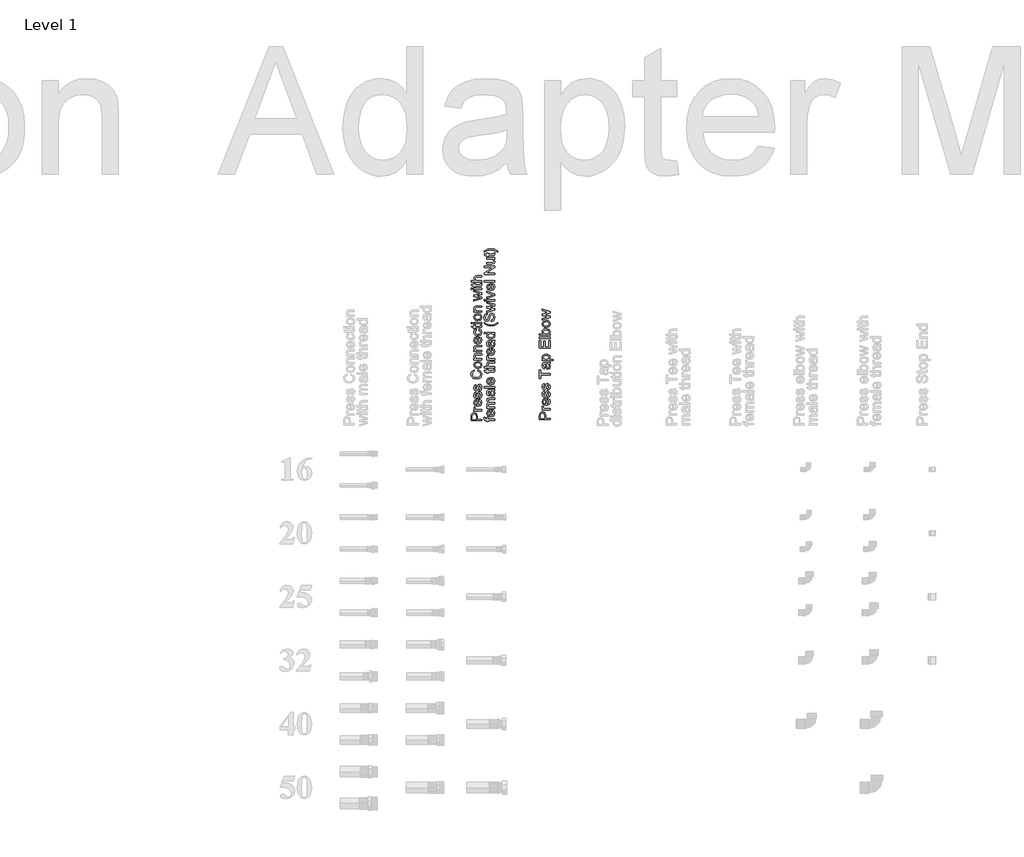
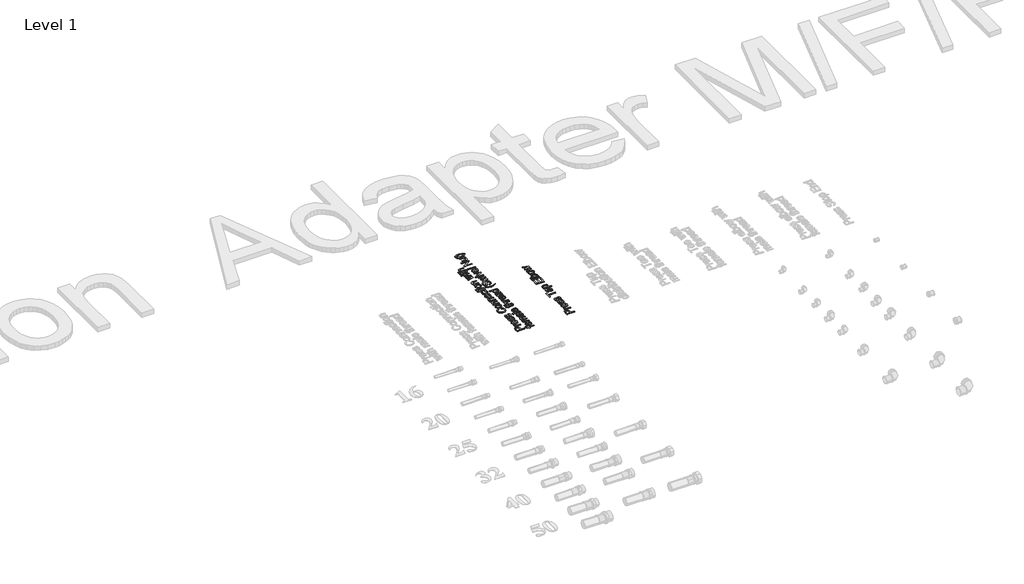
# One storey, part 42 of 57: 2 proxies.
"""IFC4 building model written with IfcOpenShell, lengths in millimetres."""

from ifc_helpers import new_model, si_unit, frame, origin, place, context, project, spatial, polyline, outline, extrude, element, save

model = new_model("IFC4")

# Units and contexts
model_context = context("Model", 3, world=origin())
ifc_project = project(units=[si_unit("LENGTHUNIT", "METRE", prefix="MILLI")], contexts=[model_context])

# Site, building, storey
site = spatial("IfcSite", under=ifc_project)
building = spatial("IfcBuilding", under=site)
storey = spatial("IfcBuildingStorey", under=building, Name="Level 1", Elevation=27.3876384)

# Proxies
placement = place(None, origin())
element("IfcBuildingElementProxy", 1, Name="50mm Arial", ObjectType="50mm Arial", at=placement, inside=storey, context=model_context, shape_type="SweptSolid", body=[
    extrude(outline(polyline([(30019.1417262, 30426.4316676), (29968.9135711, 30426.4316676), (29968.9135711, 30445.0464965), (29969.3918177, 30452.5512892), (29971.7401311, 30458.651999), (29976.5961734, 30462.6067304), (29983.4449099, 30464.1027839), (29994.2974288, 30460.0622133), (29998.7365382, 30445.4756922), (29998.7365382, 30432.710187), (30019.1417262, 30432.710187), (30019.1417262, 30426.4316676)]), holes=[polyline([(29992.4580188, 30432.710187), (29992.4580188, 30445.8435742), (29990.152625, 30455.089675), (29983.6656391, 30457.8242645), (29978.4662402, 30456.2117151), (29975.6212861, 30451.9749408), (29975.1920905, 30445.6964214), (29975.1920905, 30432.710187), (29992.4580188, 30432.710187)])]), frame((0.0, 0.0, 27.3876384), z_axis=(0.0, 0.0, 1.0), x_axis=(1.0, 0.0, 0.0)), (0.0, 0.0, 1.0), 2.0),
    extrude(outline(polyline([(30019.1417262, 30471.9509331), (29982.2554248, 30471.9509331), (29982.2554248, 30477.4446376), (29987.7123411, 30477.4446376), (29982.6846205, 30481.3441867), (29981.4706099, 30485.2682613), (29983.4081217, 30491.5713062), (29989.0367162, 30489.4743788), (29987.7491293, 30485.0597949), (29988.9876653, 30481.5097336), (29992.4212306, 30479.2472594), (29999.754345, 30478.2294525), (30019.1417262, 30478.2294525), (30019.1417262, 30471.9509331)])), frame((0.0, 0.0, 27.3876384), z_axis=(0.0, 0.0, 1.0), x_axis=(1.0, 0.0, 0.0)), (0.0, 0.0, 1.0), 2.0),
    extrude(outline(polyline([(30008.1543173, 30521.3206969), (30008.9391322, 30527.4765889), (30017.0447988, 30521.7192357), (30019.9265411, 30510.9954755), (30014.9540028, 30497.9601902), (30001.0051438, 30493.140936), (29986.5964323, 30498.0092411), (29981.4706099, 30510.6398563), (29986.5841696, 30522.9087208), (30000.9683556, 30527.6727927), (30002.6606128, 30527.6360045), (30002.6606128, 30499.4194554), (30010.8153304, 30503.0308303), (30013.6480217, 30511.1181029), (30012.3359093, 30517.2739949), (30008.1543173, 30521.3206969)]), holes=[polyline([(29996.3820934, 30499.4194554), (29996.3820934, 30521.3942733), (29990.6921852, 30518.880413), (29987.7491293, 30510.6153308), (29990.0974427, 30502.8836776), (29996.3820934, 30499.4194554)])]), frame((0.0, 0.0, 27.3876384), z_axis=(0.0, 0.0, 1.0), x_axis=(1.0, 0.0, 0.0)), (0.0, 0.0, 1.0), 2.0),
    extrude(outline(polyline([(30008.1543173, 30531.5968673), (30007.3695023, 30537.8753867), (30012.0293409, 30540.7816544), (30013.6480217, 30547.4403185), (30012.164231, 30553.8414652), (30008.6816148, 30555.9261299), (30005.8611862, 30553.8292025), (30004.0708271, 30547.3667421), (30000.9990124, 30537.9121749), (29997.412163, 30533.7857651), (29992.3476542, 30532.3816822), (29987.6694215, 30533.5098536), (29984.0948348, 30536.5877997), (29982.2370307, 30540.5793193), (29981.4706099, 30545.9810533), (29982.7030146, 30553.6207361), (29986.038478, 30558.4767784), (29991.6732039, 30560.6350194), (29992.4580188, 30554.3565), (29988.9937967, 30551.9959239), (29987.7491293, 30546.4715626), (29988.9386144, 30540.4628234), (29991.7099921, 30538.6602016), (29993.5371393, 30539.4082283), (29994.9228282, 30541.7504103), (29996.2594661, 30547.1582757), (29999.2147848, 30556.3737196), (30002.5625109, 30560.6534135), (30008.0194272, 30562.2046493), (30014.0281664, 30560.3836334), (30018.3875681, 30555.1290522), (30019.9265411, 30547.3544794), (30016.9589597, 30536.4038587), (30008.1543173, 30531.5968673)])), frame((0.0, 0.0, 27.3876384), z_axis=(0.0, 0.0, 1.0), x_axis=(1.0, 0.0, 0.0)), (0.0, 0.0, 1.0), 2.0),
    extrude(outline(polyline([(30008.1543173, 30566.9135388), (30007.3695023, 30573.1920582), (30012.0293409, 30576.098326), (30013.6480217, 30582.7569901), (30012.164231, 30589.1581368), (30008.6816148, 30591.2428014), (30005.8611862, 30589.1458741), (30004.0708271, 30582.6834137), (30000.9990124, 30573.2288464), (29997.412163, 30569.1024367), (29992.3476542, 30567.6983537), (29987.6694215, 30568.8265252), (29984.0948348, 30571.9044712), (29982.2370307, 30575.8959909), (29981.4706099, 30581.2977248), (29982.7030146, 30588.9374076), (29986.038478, 30593.7934499), (29991.6732039, 30595.951691), (29992.4580188, 30589.6731716), (29988.9937967, 30587.3125954), (29987.7491293, 30581.7882341), (29988.9386144, 30575.7794949), (29991.7099921, 30573.9768731), (29993.5371393, 30574.7248998), (29994.9228282, 30577.0670819), (29996.2594661, 30582.4749472), (29999.2147848, 30591.6903912), (30002.5625109, 30595.9700851), (30008.0194272, 30597.5213208), (30014.0281664, 30595.7003049), (30018.3875681, 30590.4457238), (30019.9265411, 30582.6711509), (30016.9589597, 30571.7205302), (30008.1543173, 30566.9135388)])), frame((0.0, 0.0, 27.3876384), z_axis=(0.0, 0.0, 1.0), x_axis=(1.0, 0.0, 0.0)), (0.0, 0.0, 1.0), 2.0),
    extrude(outline(polyline([(30001.2871867, 30660.3065147), (30002.9058675, 30666.585034), (30015.5671395, 30659.141555), (30019.9265411, 30645.995905), (30016.6278659, 30632.9299628), (30007.0751967, 30625.2657546), (29993.6475039, 30622.6353983), (29979.9990819, 30625.6091111), (29971.1515199, 30634.0642657), (29968.1287562, 30646.1307951), (29972.0405681, 30658.706228), (29983.0525025, 30665.8002191), (29984.5485559, 30659.5216997), (29976.8291654, 30654.3713518), (29974.4072756, 30645.8855404), (29977.0928141, 30636.0630912), (29984.3033012, 30630.5142044), (29993.6352412, 30628.9139177), (30004.4509718, 30630.80851), (30011.361022, 30636.7068847), (30013.6480217, 30645.3705056), (30010.5332875, 30654.9783571), (30001.2871867, 30660.3065147)])), frame((0.0, 0.0, 27.3876384), z_axis=(0.0, 0.0, 1.0), x_axis=(1.0, 0.0, 0.0)), (0.0, 0.0, 1.0), 2.0),
    extrude(outline(polyline([(30000.6985755, 30672.8635534), (29991.8050283, 30674.2216511), (29985.5541, 30678.2959442), (29981.4706099, 30689.3569295), (29986.4431482, 30701.2211239), (30000.1835407, 30705.8257802), (30011.3548906, 30703.7901665), (30017.6763296, 30697.861135), (30019.9265411, 30689.3569295), (30014.9723969, 30677.4191588), (30000.6985755, 30672.8635534)]), holes=[polyline([(30000.6863128, 30679.1420728), (30010.4167915, 30682.0483406), (30013.6480217, 30689.3569295), (30010.3983974, 30696.640993), (30000.490109, 30699.5472608), (29990.9803594, 30696.6225989), (29987.7491293, 30689.3569295), (29990.9680967, 30682.0483406), (30000.6863128, 30679.1420728)])]), frame((0.0, 0.0, 27.3876384), z_axis=(0.0, 0.0, 1.0), x_axis=(1.0, 0.0, 0.0)), (0.0, 0.0, 1.0), 2.0),
    extrude(outline(polyline([(30019.1417262, 30712.8891145), (29982.2554248, 30712.8891145), (29982.2554248, 30719.1676339), (29987.4057727, 30719.1676339), (29982.9544006, 30723.9684939), (29981.4706099, 30730.5229248), (29982.6662264, 30736.4519563), (29985.805486, 30740.4986582), (29990.4224051, 30742.3809878), (29996.492458, 30742.7120816), (30019.1417262, 30742.7120816), (30019.1417262, 30736.4335622), (29997.3385866, 30736.4335622), (29991.7835685, 30735.7100609), (29988.8466439, 30733.1532811), (29987.7491293, 30728.8429304), (29990.2139386, 30722.0309821), (29999.570404, 30719.1676339), (30019.1417262, 30719.1676339), (30019.1417262, 30712.8891145)])), frame((0.0, 0.0, 27.3876384), z_axis=(0.0, 0.0, 1.0), x_axis=(1.0, 0.0, 0.0)), (0.0, 0.0, 1.0), 2.0),
    extrude(outline(polyline([(30019.1417262, 30751.3450457), (29982.2554248, 30751.3450457), (29982.2554248, 30757.6235651), (29987.4057727, 30757.6235651), (29982.9544006, 30762.4244251), (29981.4706099, 30768.978856), (29982.6662264, 30774.9078875), (29985.805486, 30778.9545895), (29990.4224051, 30780.836919), (29996.492458, 30781.1680128), (30019.1417262, 30781.1680128), (30019.1417262, 30774.8894934), (29997.3385866, 30774.8894934), (29991.7835685, 30774.1659922), (29988.8466439, 30771.6092123), (29987.7491293, 30767.2988616), (29990.2139386, 30760.4869133), (29999.570404, 30757.6235651), (30019.1417262, 30757.6235651), (30019.1417262, 30751.3450457)])), frame((0.0, 0.0, 27.3876384), z_axis=(0.0, 0.0, 1.0), x_axis=(1.0, 0.0, 0.0)), (0.0, 0.0, 1.0), 2.0),
    extrude(outline(polyline([(30008.1543173, 30815.626293), (30008.9391322, 30821.7821851), (30017.0447988, 30816.0248318), (30019.9265411, 30805.3010717), (30014.9540028, 30792.2657863), (30001.0051438, 30787.4465322), (29986.5964323, 30792.3148373), (29981.4706099, 30804.9454524), (29986.5841696, 30817.214317), (30000.9683556, 30821.9783888), (30002.6606128, 30821.9416006), (30002.6606128, 30793.7250516), (30010.8153304, 30797.3364265), (30013.6480217, 30805.423699), (30012.3359093, 30811.5795911), (30008.1543173, 30815.626293)]), holes=[polyline([(29996.3820934, 30793.7250516), (29996.3820934, 30815.6998694), (29990.6921852, 30813.1860091), (29987.7491293, 30804.920927), (29990.0974427, 30797.1892737), (29996.3820934, 30793.7250516)])]), frame((0.0, 0.0, 27.3876384), z_axis=(0.0, 0.0, 1.0), x_axis=(1.0, 0.0, 0.0)), (0.0, 0.0, 1.0), 2.0),
    extrude(outline(polyline([(30005.7998725, 30851.8013559), (30006.5846874, 30858.0798753), (30016.3887426, 30853.0398919), (30019.9265411, 30843.0825526), (30014.990791, 30831.18157), (30000.8334656, 30826.6872783), (29990.404011, 30828.6063961), (29983.7024273, 30834.4557198), (29981.4706099, 30842.9967135), (29984.5362932, 30852.5432512), (29993.2428337, 30857.2950603), (29994.0276486, 30851.016541), (29989.3248905, 30848.1041418), (29987.7491293, 30843.0457644), (29990.8516007, 30835.7678323), (30000.6617873, 30832.9657977), (30010.5639443, 30835.7065186), (30013.6480217, 30842.8740861), (30011.7227726, 30848.7908549), (30005.7998725, 30851.8013559)])), frame((0.0, 0.0, 27.3876384), z_axis=(0.0, 0.0, 1.0), x_axis=(1.0, 0.0, 0.0)), (0.0, 0.0, 1.0), 2.0),
    extrude(outline(polyline([(30013.9055391, 30876.9154334), (30019.3256672, 30877.7002483), (30019.9265411, 30873.0036215), (30018.8842088, 30867.742909), (30016.1496193, 30865.1186841), (30009.0249713, 30864.3583946), (29988.5339442, 30864.3583946), (29988.5339442, 30859.6495051), (29982.2554248, 30859.6495051), (29982.2554248, 30864.3583946), (29973.2913668, 30864.3583946), (29969.6002842, 30870.636914), (29982.2554248, 30870.636914), (29982.2554248, 30876.9154334), (29988.5339442, 30876.9154334), (29988.5339442, 30870.636914), (30008.8410303, 30870.636914), (30012.0783919, 30870.9680078), (30013.6480217, 30874.1808439), (30013.9055391, 30876.9154334)])), frame((0.0, 0.0, 27.3876384), z_axis=(0.0, 0.0, 1.0), x_axis=(1.0, 0.0, 0.0)), (0.0, 0.0, 1.0), 2.0),
    extrude(outline(polyline([(29975.1920905, 30883.1939528), (29968.9135711, 30883.1939528), (29968.9135711, 30889.4724722), (29975.1920905, 30889.4724722), (29975.1920905, 30883.1939528)])), frame((0.0, 0.0, 27.3876384), z_axis=(0.0, 0.0, 1.0), x_axis=(1.0, 0.0, 0.0)), (0.0, 0.0, 1.0), 2.0),
    extrude(outline(polyline([(30019.1417262, 30883.1939528), (29982.2554248, 30883.1939528), (29982.2554248, 30889.4724722), (30019.1417262, 30889.4724722), (30019.1417262, 30883.1939528)])), frame((0.0, 0.0, 27.3876384), z_axis=(0.0, 0.0, 1.0), x_axis=(1.0, 0.0, 0.0)), (0.0, 0.0, 1.0), 2.0),
    extrude(outline(polyline([(30000.6985755, 30897.3206214), (29991.8050283, 30898.6787191), (29985.5541, 30902.7530122), (29981.4706099, 30913.8139975), (29986.4431482, 30925.6781919), (30000.1835407, 30930.2828482), (30011.3548906, 30928.2472345), (30017.6763296, 30922.318203), (30019.9265411, 30913.8139975), (30014.9723969, 30901.8762268), (30000.6985755, 30897.3206214)]), holes=[polyline([(30000.6863128, 30903.5991408), (30010.4167915, 30906.5054086), (30013.6480217, 30913.8139975), (30010.3983974, 30921.098061), (30000.490109, 30924.0043288), (29990.9803594, 30921.0796669), (29987.7491293, 30913.8139975), (29990.9680967, 30906.5054086), (30000.6863128, 30903.5991408)])]), frame((0.0, 0.0, 27.3876384), z_axis=(0.0, 0.0, 1.0), x_axis=(1.0, 0.0, 0.0)), (0.0, 0.0, 1.0), 2.0),
    extrude(outline(polyline([(30019.1417262, 30937.3461825), (29982.2554248, 30937.3461825), (29982.2554248, 30943.6247019), (29987.4057727, 30943.6247019), (29982.9544006, 30948.4255619), (29981.4706099, 30954.9799928), (29982.6662264, 30960.9090243), (29985.805486, 30964.9557262), (29990.4224051, 30966.8380558), (29996.492458, 30967.1691496), (30019.1417262, 30967.1691496), (30019.1417262, 30960.8906302), (29997.3385866, 30960.8906302), (29991.7835685, 30960.1671289), (29988.8466439, 30957.6103491), (29987.7491293, 30953.2999983), (29990.2139386, 30946.4880501), (29999.570404, 30943.6247019), (30019.1417262, 30943.6247019), (30019.1417262, 30937.3461825)])), frame((0.0, 0.0, 27.3876384), z_axis=(0.0, 0.0, 1.0), x_axis=(1.0, 0.0, 0.0)), (0.0, 0.0, 1.0), 2.0),
    extrude(outline(polyline([(30019.1417262, 31001.5415906), (29982.2554248, 30990.3211898), (29982.2554248, 30996.8449638), (30003.7765215, 31003.2093224), (30011.4652552, 31005.110046), (30004.0585644, 31006.6674131), (29982.2554248, 31011.7319219), (29982.2554248, 31019.2121891), (30003.9972507, 31024.2521725), (30010.7049658, 31025.6378613), (30003.6293687, 31027.6244241), (29982.2554248, 31034.0010454), (29982.2554248, 31040.5493449), (30019.1417262, 31029.2431049), (30019.1417262, 31021.652473), (29997.5102649, 31016.8332189), (29990.7657616, 31015.4352673), (30019.1417262, 31009.2180616), (30019.1417262, 31001.5415906)])), frame((0.0, 0.0, 27.3876384), z_axis=(0.0, 0.0, 1.0), x_axis=(1.0, 0.0, 0.0)), (0.0, 0.0, 1.0), 2.0),
    extrude(outline(polyline([(29975.1920905, 31044.8658269), (29968.9135711, 31044.8658269), (29968.9135711, 31051.1443463), (29975.1920905, 31051.1443463), (29975.1920905, 31044.8658269)])), frame((0.0, 0.0, 27.3876384), z_axis=(0.0, 0.0, 1.0), x_axis=(1.0, 0.0, 0.0)), (0.0, 0.0, 1.0), 2.0),
    extrude(outline(polyline([(30019.1417262, 31044.8658269), (29982.2554248, 31044.8658269), (29982.2554248, 31051.1443463), (30019.1417262, 31051.1443463), (30019.1417262, 31044.8658269)])), frame((0.0, 0.0, 27.3876384), z_axis=(0.0, 0.0, 1.0), x_axis=(1.0, 0.0, 0.0)), (0.0, 0.0, 1.0), 2.0),
    extrude(outline(polyline([(30013.9055391, 31073.9039791), (30019.3256672, 31074.688794), (30019.9265411, 31069.9921672), (30018.8842088, 31064.7314547), (30016.1496193, 31062.1072298), (30009.0249713, 31061.3469403), (29988.5339442, 31061.3469403), (29988.5339442, 31056.6380508), (29982.2554248, 31056.6380508), (29982.2554248, 31061.3469403), (29973.2913668, 31061.3469403), (29969.6002842, 31067.6254597), (29982.2554248, 31067.6254597), (29982.2554248, 31073.9039791), (29988.5339442, 31073.9039791), (29988.5339442, 31067.6254597), (30008.8410303, 31067.6254597), (30012.0783919, 31067.9565535), (30013.6480217, 31071.1693896), (30013.9055391, 31073.9039791)])), frame((0.0, 0.0, 27.3876384), z_axis=(0.0, 0.0, 1.0), x_axis=(1.0, 0.0, 0.0)), (0.0, 0.0, 1.0), 2.0),
    extrude(outline(polyline([(30019.1417262, 31080.1824985), (29968.9135711, 31080.1824985), (29968.9135711, 31086.4610179), (29987.3812473, 31086.4610179), (29981.4706099, 31097.3871131), (29983.0831593, 31104.4381847), (29987.5406628, 31108.7178786), (29995.7934822, 31110.0054656), (30019.1417262, 31110.0054656), (30019.1417262, 31103.7269462), (29996.4434071, 31103.7269462), (29989.8215312, 31101.7281207), (29987.7491293, 31096.0627379), (29989.1470808, 31090.9185214), (29992.9362654, 31087.4849561), (29999.5458786, 31086.4610179), (30019.1417262, 31086.4610179), (30019.1417262, 31080.1824985)])), frame((0.0, 0.0, 27.3876384), z_axis=(0.0, 0.0, 1.0), x_axis=(1.0, 0.0, 0.0)), (0.0, 0.0, 1.0), 2.0),
    extrude(outline(polyline([(30080.1291351, 30427.2164825), (30049.5213531, 30427.2164825), (30049.5213531, 30421.722778), (30043.2428337, 30421.722778), (30043.2428337, 30427.2164825), (30039.5272256, 30427.2164825), (30034.2910385, 30427.8786701), (30030.5509049, 30431.0915062), (30029.1161651, 30437.4190765), (30029.8028782, 30443.1457729), (30035.6889901, 30442.2260679), (30035.3946845, 30438.6085616), (30036.4370168, 30434.6538302), (30040.3243032, 30433.4950019), (30043.2428337, 30433.4950019), (30043.2428337, 30440.5583362), (30049.5213531, 30440.5583362), (30049.5213531, 30433.4950019), (30080.1291351, 30433.4950019), (30080.1291351, 30427.2164825)])), frame((0.0, 0.0, 27.3876384), z_axis=(0.0, 0.0, 1.0), x_axis=(1.0, 0.0, 0.0)), (0.0, 0.0, 1.0), 2.0),
    extrude(outline(polyline([(30069.1417262, 30471.8773567), (30069.9265411, 30478.0332488), (30078.0322077, 30472.2758956), (30080.91395, 30461.5521354), (30075.9414117, 30448.51685), (30061.9925527, 30443.6975959), (30047.5838413, 30448.565901), (30042.4580188, 30461.1965161), (30047.5715785, 30473.4653807), (30061.9557645, 30478.2294525), (30063.6480217, 30478.1926643), (30063.6480217, 30449.9761153), (30071.8027393, 30453.5874902), (30074.6354306, 30461.6747627), (30073.3233182, 30467.8306548), (30069.1417262, 30471.8773567)]), holes=[polyline([(30057.3695023, 30449.9761153), (30057.3695023, 30471.9509331), (30051.6795941, 30469.4370728), (30048.7365382, 30461.1719907), (30051.0848516, 30453.4403374), (30057.3695023, 30449.9761153)])]), frame((0.0, 0.0, 27.3876384), z_axis=(0.0, 0.0, 1.0), x_axis=(1.0, 0.0, 0.0)), (0.0, 0.0, 1.0), 2.0),
    extrude(outline(polyline([(30080.1291351, 30484.5079719), (30043.2428337, 30484.5079719), (30043.2428337, 30490.7864913), (30049.3128866, 30490.7864913), (30044.3403483, 30495.1029734), (30042.4580188, 30501.2466027), (30044.3771365, 30507.5373848), (30049.754345, 30510.9954755), (30044.2821004, 30515.8944374), (30042.4580188, 30522.0809863), (30045.4930453, 30530.2908862), (30054.8433793, 30533.1664971), (30080.1291351, 30533.1664971), (30080.1291351, 30526.8879777), (30057.5411806, 30526.8879777), (30052.2988622, 30526.3054979), (30049.7175568, 30524.1963078), (30048.7365382, 30520.6094584), (30051.2503985, 30514.4351722), (30059.3070142, 30511.9764942), (30080.1291351, 30511.9764942), (30080.1291351, 30505.6979748), (30056.8422048, 30505.6979748), (30050.7598892, 30504.2448409), (30048.7365382, 30499.4807691), (30050.0854388, 30494.8331932), (30054.0340389, 30491.7429845), (30061.5265689, 30490.7864913), (30080.1291351, 30490.7864913), (30080.1291351, 30484.5079719)])), frame((0.0, 0.0, 27.3876384), z_axis=(0.0, 0.0, 1.0), x_axis=(1.0, 0.0, 0.0)), (0.0, 0.0, 1.0), 2.0),
    extrude(outline(polyline([(30075.4202456, 30566.1287239), (30079.675414, 30560.0402769), (30080.91395, 30553.3141677), (30077.9341059, 30544.1968256), (30070.3189486, 30541.0146464), (30065.3525416, 30542.2163942), (30061.7472981, 30545.374048), (30059.6871589, 30549.7702378), (30058.7429284, 30555.2026286), (30056.5846874, 30566.0919357), (30050.5514227, 30564.3996785), (30048.7365382, 30557.4589715), (30049.9444174, 30551.1068758), (30054.2302426, 30548.0779807), (30053.4454277, 30541.7994613), (30047.3140611, 30544.5156567), (30043.7210803, 30549.9848357), (30042.4580188, 30558.2683119), (30043.5739275, 30565.8773379), (30046.375962, 30570.1754258), (30050.6372618, 30572.1006749), (30056.1309663, 30572.4072433), (30063.9423273, 30572.4072433), (30074.8500285, 30572.7260743), (30080.1291351, 30573.9768731), (30080.1291351, 30567.6983537), (30075.4202456, 30566.1287239)]), holes=[polyline([(30062.8632068, 30566.1287239), (30064.7884559, 30555.9997063), (30065.8062628, 30550.5979723), (30067.4617317, 30548.1515571), (30069.8774902, 30547.2931657), (30073.2742673, 30549.1632325), (30074.6354306, 30554.6508056), (30073.1332458, 30561.0029014), (30069.4973454, 30565.0986543), (30064.6413031, 30566.0919357), (30062.8632068, 30566.1287239)])]), frame((0.0, 0.0, 27.3876384), z_axis=(0.0, 0.0, 1.0), x_axis=(1.0, 0.0, 0.0)), (0.0, 0.0, 1.0), 2.0),
    extrude(outline(polyline([(30080.1291351, 30581.0402074), (30029.90098, 30581.0402074), (30029.90098, 30587.3187268), (30080.1291351, 30587.3187268), (30080.1291351, 30581.0402074)])), frame((0.0, 0.0, 27.3876384), z_axis=(0.0, 0.0, 1.0), x_axis=(1.0, 0.0, 0.0)), (0.0, 0.0, 1.0), 2.0),
    extrude(outline(polyline([(30069.1417262, 30622.5618219), (30069.9265411, 30628.717714), (30078.0322077, 30622.9603608), (30080.91395, 30612.2366006), (30075.9414117, 30599.2013153), (30061.9925527, 30594.3820611), (30047.5838413, 30599.2503662), (30042.4580188, 30611.8809814), (30047.5715785, 30624.1498459), (30061.9557645, 30628.9139177), (30063.6480217, 30628.8771295), (30063.6480217, 30600.6605805), (30071.8027393, 30604.2719554), (30074.6354306, 30612.3592279), (30073.3233182, 30618.51512), (30069.1417262, 30622.5618219)]), holes=[polyline([(30057.3695023, 30600.6605805), (30057.3695023, 30622.6353983), (30051.6795941, 30620.121538), (30048.7365382, 30611.8564559), (30051.0848516, 30604.1248026), (30057.3695023, 30600.6605805)])]), frame((0.0, 0.0, 27.3876384), z_axis=(0.0, 0.0, 1.0), x_axis=(1.0, 0.0, 0.0)), (0.0, 0.0, 1.0), 2.0),
    extrude(outline(polyline([(30074.892948, 30668.1546639), (30080.3130761, 30668.9394788), (30080.91395, 30664.242852), (30079.8716177, 30658.9821395), (30077.1370282, 30656.3579146), (30070.0123802, 30655.5976251), (30049.5213531, 30655.5976251), (30049.5213531, 30650.8887356), (30043.2428337, 30650.8887356), (30043.2428337, 30655.5976251), (30034.2787758, 30655.5976251), (30030.5876931, 30661.8761445), (30043.2428337, 30661.8761445), (30043.2428337, 30668.1546639), (30049.5213531, 30668.1546639), (30049.5213531, 30661.8761445), (30069.8284392, 30661.8761445), (30073.0658008, 30662.2072383), (30074.6354306, 30665.4200744), (30074.892948, 30668.1546639)])), frame((0.0, 0.0, 27.3876384), z_axis=(0.0, 0.0, 1.0), x_axis=(1.0, 0.0, 0.0)), (0.0, 0.0, 1.0), 2.0),
    extrude(outline(polyline([(30080.1291351, 30674.4331833), (30029.90098, 30674.4331833), (30029.90098, 30680.7117027), (30048.3686562, 30680.7117027), (30042.4580188, 30691.6377979), (30044.0705682, 30698.6888695), (30048.5280717, 30702.9685634), (30056.7808911, 30704.2561503), (30080.1291351, 30704.2561503), (30080.1291351, 30697.977631), (30057.430816, 30697.977631), (30050.8089401, 30695.9788055), (30048.7365382, 30690.3134227), (30050.1344898, 30685.1692062), (30053.9236743, 30681.7356409), (30060.5332875, 30680.7117027), (30080.1291351, 30680.7117027), (30080.1291351, 30674.4331833)])), frame((0.0, 0.0, 27.3876384), z_axis=(0.0, 0.0, 1.0), x_axis=(1.0, 0.0, 0.0)), (0.0, 0.0, 1.0), 2.0),
    extrude(outline(polyline([(30080.1291351, 30712.8891145), (30043.2428337, 30712.8891145), (30043.2428337, 30718.382819), (30048.69975, 30718.382819), (30043.6720294, 30722.2823681), (30042.4580188, 30726.2064427), (30044.3955306, 30732.5094876), (30050.0241252, 30730.4125602), (30048.7365382, 30725.9979763), (30049.9750742, 30722.447915), (30053.4086395, 30720.1854407), (30060.741754, 30719.1676339), (30080.1291351, 30719.1676339), (30080.1291351, 30712.8891145)])), frame((0.0, 0.0, 27.3876384), z_axis=(0.0, 0.0, 1.0), x_axis=(1.0, 0.0, 0.0)), (0.0, 0.0, 1.0), 2.0),
    extrude(outline(polyline([(30069.1417262, 30762.2588782), (30069.9265411, 30768.4147703), (30078.0322077, 30762.6574171), (30080.91395, 30751.9336569), (30075.9414117, 30738.8983716), (30061.9925527, 30734.0791174), (30047.5838413, 30738.9474225), (30042.4580188, 30751.5780377), (30047.5715785, 30763.8469022), (30061.9557645, 30768.610974), (30063.6480217, 30768.5741858), (30063.6480217, 30740.3576368), (30071.8027393, 30743.9690117), (30074.6354306, 30752.0562842), (30073.3233182, 30758.2121763), (30069.1417262, 30762.2588782)]), holes=[polyline([(30057.3695023, 30740.3576368), (30057.3695023, 30762.3324546), (30051.6795941, 30759.8185943), (30048.7365382, 30751.5535122), (30051.0848516, 30743.8218589), (30057.3695023, 30740.3576368)])]), frame((0.0, 0.0, 27.3876384), z_axis=(0.0, 0.0, 1.0), x_axis=(1.0, 0.0, 0.0)), (0.0, 0.0, 1.0), 2.0),
    extrude(outline(polyline([(30075.4202456, 30798.4339411), (30079.675414, 30792.3454941), (30080.91395, 30785.6193849), (30077.9341059, 30776.5020428), (30070.3189486, 30773.3198636), (30065.3525416, 30774.5216114), (30061.7472981, 30777.6792652), (30059.6871589, 30782.0754551), (30058.7429284, 30787.5078459), (30056.5846874, 30798.3971529), (30050.5514227, 30796.7048957), (30048.7365382, 30789.7641888), (30049.9444174, 30783.412093), (30054.2302426, 30780.3831979), (30053.4454277, 30774.1046785), (30047.3140611, 30776.8208739), (30043.7210803, 30782.2900529), (30042.4580188, 30790.5735291), (30043.5739275, 30798.1825551), (30046.375962, 30802.4806431), (30050.6372618, 30804.4058922), (30056.1309663, 30804.7124605), (30063.9423273, 30804.7124605), (30074.8500285, 30805.0312916), (30080.1291351, 30806.2820903), (30080.1291351, 30800.003571), (30075.4202456, 30798.4339411)]), holes=[polyline([(30062.8632068, 30798.4339411), (30064.7884559, 30788.3049235), (30065.8062628, 30782.9031895), (30067.4617317, 30780.4567743), (30069.8774902, 30779.598383), (30073.2742673, 30781.4684498), (30074.6354306, 30786.9560229), (30073.1332458, 30793.3081186), (30069.4973454, 30797.4038715), (30064.6413031, 30798.3971529), (30062.8632068, 30798.4339411)])]), frame((0.0, 0.0, 27.3876384), z_axis=(0.0, 0.0, 1.0), x_axis=(1.0, 0.0, 0.0)), (0.0, 0.0, 1.0), 2.0),
    extrude(outline(polyline([(30080.1291351, 30836.1050574), (30074.206235, 30836.1050574), (30079.2370213, 30831.9510566), (30080.91395, 30826.2090317), (30078.4859289, 30818.4344589), (30071.7107688, 30812.9407545), (30061.7227726, 30810.9909799), (30051.7286451, 30812.7874703), (30044.8492518, 30818.1708101), (30042.4580188, 30826.1845063), (30044.1686701, 30831.9725163), (30048.6139108, 30836.1050574), (30029.90098, 30836.1050574), (30029.90098, 30842.3835768), (30080.1291351, 30842.3835768), (30080.1291351, 30836.1050574)]), holes=[polyline([(30061.6982471, 30817.2694993), (30071.4164632, 30820.1021906), (30074.6354306, 30826.7853802), (30071.563616, 30833.388862), (30062.1764937, 30836.1050574), (30051.9861625, 30833.3398111), (30048.7365382, 30826.5278628), (30051.8574038, 30819.9182496), (30061.6982471, 30817.2694993)])]), frame((0.0, 0.0, 27.3876384), z_axis=(0.0, 0.0, 1.0), x_axis=(1.0, 0.0, 0.0)), (0.0, 0.0, 1.0), 2.0),
    extrude(outline(polyline([(30094.2558037, 30883.9787677), (30079.5282612, 30875.0637607), (30062.0416037, 30871.421729), (30046.7745009, 30874.1440557), (30029.90098, 30883.9787677), (30029.90098, 30888.6876573), (30039.8460566, 30882.8138081), (30049.4845649, 30879.2821409), (30062.0783919, 30877.7002483), (30078.1732292, 30880.4471006), (30094.2558037, 30888.6876573), (30094.2558037, 30883.9787677)])), frame((0.0, 0.0, 27.3876384), z_axis=(0.0, 0.0, 1.0), x_axis=(1.0, 0.0, 0.0)), (0.0, 0.0, 1.0), 2.0),
    extrude(outline(polyline([(30062.8632068, 30893.3965468), (30062.8632068, 30899.6750662), (30069.1478575, 30901.6984172), (30073.1209831, 30906.6402986), (30074.6354306, 30914.1696168), (30073.4888651, 30920.730179), (30070.3373427, 30924.9669533), (30066.1250938, 30926.3587736), (30062.2071506, 30925.3164412), (30059.3560651, 30921.0490101), (30056.9587008, 30911.9071425), (30053.8623606, 30902.0662991), (30049.1902593, 30896.7258789), (30042.9485281, 30894.9661766), (30035.8422742, 30897.1428118), (30030.8268164, 30903.5010389), (30029.1161651, 30912.8084534), (30030.9065241, 30922.7412673), (30036.1672367, 30929.3631432), (30044.0276486, 30931.852478), (30044.0276486, 30925.5739586), (30037.577451, 30922.017766), (30035.3946845, 30913.0537081), (30037.5529255, 30904.0651247), (30042.7645871, 30901.244696), (30047.1178574, 30903.2435215), (30050.6249991, 30913.4951665), (30053.7765215, 30924.6052027), (30058.8655558, 30930.681387), (30065.9656783, 30932.6372929), (30073.4766024, 30930.3870814), (30078.9580441, 30923.9123583), (30080.91395, 30914.4148715), (30078.8047599, 30903.200602), (30072.4526641, 30896.1066108), (30062.8632068, 30893.3965468)])), frame((0.0, 0.0, 27.3876384), z_axis=(0.0, 0.0, 1.0), x_axis=(1.0, 0.0, 0.0)), (0.0, 0.0, 1.0), 2.0),
    extrude(outline(polyline([(30080.1291351, 30947.389361), (30043.2428337, 30936.1689601), (30043.2428337, 30942.6927342), (30064.7639304, 30949.0570927), (30072.4526641, 30950.9578163), (30065.0459733, 30952.5151834), (30043.2428337, 30957.5796922), (30043.2428337, 30965.0599595), (30064.9846596, 30970.0999428), (30071.6923747, 30971.4856316), (30064.6167776, 30973.4721944), (30043.2428337, 30979.8488157), (30043.2428337, 30986.3971152), (30080.1291351, 30975.0908752), (30080.1291351, 30967.5002434), (30058.4976738, 30962.6809892), (30051.7531705, 30961.2830376), (30080.1291351, 30955.0658319), (30080.1291351, 30947.389361)])), frame((0.0, 0.0, 27.3876384), z_axis=(0.0, 0.0, 1.0), x_axis=(1.0, 0.0, 0.0)), (0.0, 0.0, 1.0), 2.0),
    extrude(outline(polyline([(30036.1794994, 30990.7135973), (30029.90098, 30990.7135973), (30029.90098, 30996.9921166), (30036.1794994, 30996.9921166), (30036.1794994, 30990.7135973)])), frame((0.0, 0.0, 27.3876384), z_axis=(0.0, 0.0, 1.0), x_axis=(1.0, 0.0, 0.0)), (0.0, 0.0, 1.0), 2.0),
    extrude(outline(polyline([(30080.1291351, 30990.7135973), (30043.2428337, 30990.7135973), (30043.2428337, 30996.9921166), (30080.1291351, 30996.9921166), (30080.1291351, 30990.7135973)])), frame((0.0, 0.0, 27.3876384), z_axis=(0.0, 0.0, 1.0), x_axis=(1.0, 0.0, 0.0)), (0.0, 0.0, 1.0), 2.0),
    extrude(outline(polyline([(30080.1291351, 31015.4597928), (30043.2428337, 31002.4858211), (30043.2428337, 31009.1322225), (30065.3402789, 31016.9926344), (30072.7714952, 31019.3593419), (30065.7572118, 31021.6769985), (30043.2428337, 31029.5864614), (30043.2428337, 31036.2328628), (30080.1291351, 31023.4183066), (30080.1291351, 31015.4597928)])), frame((0.0, 0.0, 27.3876384), z_axis=(0.0, 0.0, 1.0), x_axis=(1.0, 0.0, 0.0)), (0.0, 0.0, 1.0), 2.0),
    extrude(outline(polyline([(30069.1417262, 31067.5518833), (30069.9265411, 31073.7077754), (30078.0322077, 31067.9504221), (30080.91395, 31057.226662), (30075.9414117, 31044.1913766), (30061.9925527, 31039.3721225), (30047.5838413, 31044.2404276), (30042.4580188, 31056.8710427), (30047.5715785, 31069.1399073), (30061.9557645, 31073.9039791), (30063.6480217, 31073.8671909), (30063.6480217, 31045.6506419), (30071.8027393, 31049.2620168), (30074.6354306, 31057.3492893), (30073.3233182, 31063.5051814), (30069.1417262, 31067.5518833)]), holes=[polyline([(30057.3695023, 31045.6506419), (30057.3695023, 31067.6254597), (30051.6795941, 31065.1115994), (30048.7365382, 31056.8465173), (30051.0848516, 31049.114864), (30057.3695023, 31045.6506419)])]), frame((0.0, 0.0, 27.3876384), z_axis=(0.0, 0.0, 1.0), x_axis=(1.0, 0.0, 0.0)), (0.0, 0.0, 1.0), 2.0),
    extrude(outline(polyline([(30080.1291351, 31080.1824985), (30029.90098, 31080.1824985), (30029.90098, 31086.4610179), (30080.1291351, 31086.4610179), (30080.1291351, 31080.1824985)])), frame((0.0, 0.0, 27.3876384), z_axis=(0.0, 0.0, 1.0), x_axis=(1.0, 0.0, 0.0)), (0.0, 0.0, 1.0), 2.0),
    extrude(outline(polyline([(30080.1291351, 31116.2839849), (30029.90098, 31116.2839849), (30029.90098, 31123.0039627), (30069.6935492, 31149.2462117), (30029.90098, 31149.2462117), (30029.90098, 31155.5247311), (30080.1291351, 31155.5247311), (30080.1291351, 31148.8047533), (30040.3243032, 31122.5625043), (30080.1291351, 31122.5625043), (30080.1291351, 31116.2839849)])), frame((0.0, 0.0, 27.3876384), z_axis=(0.0, 0.0, 1.0), x_axis=(1.0, 0.0, 0.0)), (0.0, 0.0, 1.0), 2.0),
    extrude(outline(polyline([(30080.1291351, 31189.2717728), (30073.7893021, 31189.2717728), (30079.132788, 31184.3544168), (30080.91395, 31177.9410073), (30079.6631512, 31172.0365013), (30076.5238915, 31167.9652739), (30071.9008411, 31166.0952071), (30066.0637802, 31165.7273251), (30043.2428337, 31165.7273251), (30043.2428337, 31172.0058445), (30063.1084615, 31172.0058445), (30069.5096082, 31172.3859892), (30073.2681359, 31174.8691927), (30074.6354306, 31179.5474254), (30073.2374791, 31184.7897438), (30069.4299004, 31188.2539659), (30062.4340111, 31189.2717728), (30043.2428337, 31189.2717728), (30043.2428337, 31195.5502922), (30080.1291351, 31195.5502922), (30080.1291351, 31189.2717728)])), frame((0.0, 0.0, 27.3876384), z_axis=(0.0, 0.0, 1.0), x_axis=(1.0, 0.0, 0.0)), (0.0, 0.0, 1.0), 2.0),
    extrude(outline(polyline([(30074.892948, 31217.52511), (30080.3130761, 31218.3099249), (30080.91395, 31213.6132981), (30079.8716177, 31208.3525856), (30077.1370282, 31205.7283607), (30070.0123802, 31204.9680712), (30049.5213531, 31204.9680712), (30049.5213531, 31200.2591817), (30043.2428337, 31200.2591817), (30043.2428337, 31204.9680712), (30034.2787758, 31204.9680712), (30030.5876931, 31211.2465906), (30043.2428337, 31211.2465906), (30043.2428337, 31217.52511), (30049.5213531, 31217.52511), (30049.5213531, 31211.2465906), (30069.8284392, 31211.2465906), (30073.0658008, 31211.5776844), (30074.6354306, 31214.7905205), (30074.892948, 31217.52511)])), frame((0.0, 0.0, 27.3876384), z_axis=(0.0, 0.0, 1.0), x_axis=(1.0, 0.0, 0.0)), (0.0, 0.0, 1.0), 2.0),
    extrude(outline(polyline([(30094.2558037, 31225.3732592), (30094.2558037, 31220.6643697), (30078.1732292, 31228.9049264), (30062.0783919, 31231.6517786), (30049.5949295, 31230.069886), (30039.9441585, 31226.5750071), (30029.90098, 31220.6643697), (30029.90098, 31225.3732592), (30046.7745009, 31235.2079712), (30062.0416037, 31237.930298), (30079.5282612, 31234.2698722), (30094.2558037, 31225.3732592)])), frame((0.0, 0.0, 27.3876384), z_axis=(0.0, 0.0, 1.0), x_axis=(1.0, 0.0, 0.0)), (0.0, 0.0, 1.0), 2.0),
])
element("IfcBuildingElementProxy", 2, Name="50mm Arial", ObjectType="50mm Arial", at=placement, inside=storey, context=model_context, shape_type="SweptSolid", body=[
    extrude(outline(polyline([(30341.1020112, 30430.7783988), (30290.8738561, 30430.7783988), (30290.8738561, 30449.3932278), (30291.3521027, 30456.8980205), (30293.7004161, 30462.9987303), (30298.5564584, 30466.9534617), (30305.4051949, 30468.4495152), (30316.2577138, 30464.4089446), (30320.6968232, 30449.8224235), (30320.6968232, 30437.0569182), (30341.1020112, 30437.0569182), (30341.1020112, 30430.7783988)]), holes=[polyline([(30314.4183038, 30437.0569182), (30314.4183038, 30450.1903055), (30312.11291, 30459.4364063), (30305.6259241, 30462.1709958), (30300.4265252, 30460.5584464), (30297.5815711, 30456.321672), (30297.1523755, 30450.0431527), (30297.1523755, 30437.0569182), (30314.4183038, 30437.0569182)])]), frame((0.0, 0.0, 27.3876384), z_axis=(0.0, 0.0, 1.0), x_axis=(1.0, 0.0, 0.0)), (0.0, 0.0, 1.0), 2.0),
    extrude(outline(polyline([(30341.1020112, 30476.2976644), (30304.2157098, 30476.2976644), (30304.2157098, 30481.7913688), (30309.6726261, 30481.7913688), (30304.6449055, 30485.690918), (30303.4308949, 30489.6149926), (30305.3684067, 30495.9180375), (30310.9970012, 30493.8211101), (30309.7094143, 30489.4065261), (30310.9479503, 30485.8564649), (30314.3815156, 30483.5939906), (30321.71463, 30482.5761838), (30341.1020112, 30482.5761838), (30341.1020112, 30476.2976644)])), frame((0.0, 0.0, 27.3876384), z_axis=(0.0, 0.0, 1.0), x_axis=(1.0, 0.0, 0.0)), (0.0, 0.0, 1.0), 2.0),
    extrude(outline(polyline([(30330.1146023, 30525.6674281), (30330.8994172, 30531.8233202), (30339.0050838, 30526.065967), (30341.8868261, 30515.3422068), (30336.9142878, 30502.3069214), (30322.9654288, 30497.4876673), (30308.5567173, 30502.3559724), (30303.4308949, 30514.9865875), (30308.5444546, 30527.2554521), (30322.9286406, 30532.0195239), (30324.6208978, 30531.9827357), (30324.6208978, 30503.7661867), (30332.7756154, 30507.3775616), (30335.6083067, 30515.4648341), (30334.2961943, 30521.6207262), (30330.1146023, 30525.6674281)]), holes=[polyline([(30318.3423784, 30503.7661867), (30318.3423784, 30525.7410045), (30312.6524702, 30523.2271442), (30309.7094143, 30514.9620621), (30312.0577277, 30507.2304088), (30318.3423784, 30503.7661867)])]), frame((0.0, 0.0, 27.3876384), z_axis=(0.0, 0.0, 1.0), x_axis=(1.0, 0.0, 0.0)), (0.0, 0.0, 1.0), 2.0),
    extrude(outline(polyline([(30330.1146023, 30535.9435985), (30329.3297873, 30542.2221179), (30333.9896259, 30545.1283857), (30335.6083067, 30551.7870498), (30334.124516, 30558.1881965), (30330.6418998, 30560.2728612), (30327.8214711, 30558.1759338), (30326.0311121, 30551.7134734), (30322.9592974, 30542.2589061), (30319.372448, 30538.1324964), (30314.3079392, 30536.7284135), (30309.6297065, 30537.8565849), (30306.0551198, 30540.9345309), (30304.1973157, 30544.9260506), (30303.4308949, 30550.3277845), (30304.6632996, 30557.9674673), (30307.998763, 30562.8235097), (30313.6334889, 30564.9817507), (30314.4183038, 30558.7032313), (30310.9540817, 30556.3426552), (30309.7094143, 30550.8182939), (30310.8988994, 30544.8095546), (30313.6702771, 30543.0069328), (30315.4974243, 30543.7549596), (30316.8831132, 30546.0971416), (30318.2197511, 30551.5050069), (30321.1750698, 30560.7204509), (30324.5227959, 30565.0001448), (30329.9797122, 30566.5513805), (30335.9884514, 30564.7303647), (30340.3478531, 30559.4757835), (30341.8868261, 30551.7012107), (30338.9192447, 30540.7505899), (30330.1146023, 30535.9435985)])), frame((0.0, 0.0, 27.3876384), z_axis=(0.0, 0.0, 1.0), x_axis=(1.0, 0.0, 0.0)), (0.0, 0.0, 1.0), 2.0),
    extrude(outline(polyline([(30330.1146023, 30571.2602701), (30329.3297873, 30577.5387895), (30333.9896259, 30580.4450572), (30335.6083067, 30587.1037213), (30334.124516, 30593.504868), (30330.6418998, 30595.5895327), (30327.8214711, 30593.4926053), (30326.0311121, 30587.0301449), (30322.9592974, 30577.5755777), (30319.372448, 30573.4491679), (30314.3079392, 30572.045085), (30309.6297065, 30573.1732564), (30306.0551198, 30576.2512025), (30304.1973157, 30580.2427221), (30303.4308949, 30585.6444561), (30304.6632996, 30593.2841389), (30307.998763, 30598.1401812), (30313.6334889, 30600.2984222), (30314.4183038, 30594.0199028), (30310.9540817, 30591.6593267), (30309.7094143, 30586.1349654), (30310.8988994, 30580.1262262), (30313.6702771, 30578.3236044), (30315.4974243, 30579.0716311), (30316.8831132, 30581.4138131), (30318.2197511, 30586.8216785), (30321.1750698, 30596.0371224), (30324.5227959, 30600.3168163), (30329.9797122, 30601.8680521), (30335.9884514, 30600.0470362), (30340.3478531, 30594.792455), (30341.8868261, 30587.0178822), (30338.9192447, 30576.0672615), (30330.1146023, 30571.2602701)])), frame((0.0, 0.0, 27.3876384), z_axis=(0.0, 0.0, 1.0), x_axis=(1.0, 0.0, 0.0)), (0.0, 0.0, 1.0), 2.0),
    extrude(outline(polyline([(30341.1020112, 30641.8936131), (30297.1523755, 30641.8936131), (30297.1523755, 30625.4124998), (30290.8738561, 30625.4124998), (30290.8738561, 30664.6532459), (30297.1523755, 30664.6532459), (30297.1523755, 30648.1721325), (30341.1020112, 30648.1721325), (30341.1020112, 30641.8936131)])), frame((0.0, 0.0, 27.3876384), z_axis=(0.0, 0.0, 1.0), x_axis=(1.0, 0.0, 0.0)), (0.0, 0.0, 1.0), 2.0),
    extrude(outline(polyline([(30336.3931216, 30694.476213), (30340.64829, 30688.387766), (30341.8868261, 30681.6616568), (30338.9069819, 30672.5443147), (30331.2918246, 30669.3621355), (30326.3254177, 30670.5638833), (30322.7201741, 30673.7215371), (30320.660035, 30678.1177269), (30319.7158045, 30683.5501177), (30317.5575635, 30694.4394248), (30311.5242988, 30692.7471676), (30309.7094143, 30685.8064606), (30310.9172935, 30679.4543649), (30315.2031187, 30676.4254698), (30314.4183038, 30670.1469504), (30308.2869372, 30672.8631458), (30304.6939564, 30678.3323248), (30303.4308949, 30686.615801), (30304.5468036, 30694.224827), (30307.3488381, 30698.5229149), (30311.6101379, 30700.448164), (30317.1038424, 30700.7547324), (30324.9152034, 30700.7547324), (30335.8229045, 30701.0735634), (30341.1020112, 30702.3243622), (30341.1020112, 30696.0458428), (30336.3931216, 30694.476213)]), holes=[polyline([(30323.8360829, 30694.476213), (30325.761332, 30684.3471954), (30326.7791388, 30678.9454614), (30328.4346078, 30676.4990462), (30330.8503662, 30675.6406548), (30334.2471433, 30677.5107216), (30335.6083067, 30682.9982947), (30334.1061219, 30689.3503905), (30330.4702215, 30693.4461434), (30325.6141792, 30694.4394248), (30323.8360829, 30694.476213)])]), frame((0.0, 0.0, 27.3876384), z_axis=(0.0, 0.0, 1.0), x_axis=(1.0, 0.0, 0.0)), (0.0, 0.0, 1.0), 2.0),
    extrude(outline(polyline([(30355.2286798, 30709.3876965), (30304.2157098, 30709.3876965), (30304.2157098, 30715.6662159), (30310.3716018, 30715.6662159), (30305.1660716, 30720.0072235), (30303.4308949, 30725.8688099), (30305.858916, 30733.8273237), (30312.7015211, 30739.0267226), (30322.3768176, 30740.7802935), (30332.5487548, 30738.799862), (30339.477199, 30733.0486402), (30341.8868261, 30725.1085205), (30340.2742767, 30719.6454728), (30336.1969179, 30715.6662159), (30355.2286798, 30715.6662159), (30355.2286798, 30709.3876965)]), holes=[polyline([(30322.9531661, 30715.6662159), (30332.518098, 30718.3824113), (30335.6083067, 30724.9736304), (30332.4077334, 30731.6997395), (30322.4871822, 30734.5017741), (30312.8977249, 30731.7671846), (30309.7094143, 30725.2311478), (30313.10006, 30718.5663523), (30322.9531661, 30715.6662159)])]), frame((0.0, 0.0, 27.3876384), z_axis=(0.0, 0.0, 1.0), x_axis=(1.0, 0.0, 0.0)), (0.0, 0.0, 1.0), 2.0),
    extrude(outline(polyline([(30341.1020112, 30768.2488158), (30290.8738561, 30768.2488158), (30290.8738561, 30804.3503022), (30297.1523755, 30804.3503022), (30297.1523755, 30774.5273351), (30312.063859, 30774.5273351), (30312.063859, 30802.7806724), (30318.3423784, 30802.7806724), (30318.3423784, 30774.5273351), (30334.8234918, 30774.5273351), (30334.8234918, 30805.1351171), (30341.1020112, 30805.1351171), (30341.1020112, 30768.2488158)])), frame((0.0, 0.0, 27.3876384), z_axis=(0.0, 0.0, 1.0), x_axis=(1.0, 0.0, 0.0)), (0.0, 0.0, 1.0), 2.0),
    extrude(outline(polyline([(30341.1020112, 30813.7680813), (30290.8738561, 30813.7680813), (30290.8738561, 30820.0466007), (30341.1020112, 30820.0466007), (30341.1020112, 30813.7680813)])), frame((0.0, 0.0, 27.3876384), z_axis=(0.0, 0.0, 1.0), x_axis=(1.0, 0.0, 0.0)), (0.0, 0.0, 1.0), 2.0),
    extrude(outline(polyline([(30341.1020112, 30835.7428991), (30341.1020112, 30829.4643798), (30290.8738561, 30829.4643798), (30290.8738561, 30835.7428991), (30309.5009478, 30835.7428991), (30303.4308949, 30845.6021366), (30304.7981896, 30851.8929187), (30308.6425565, 30856.7734865), (30314.6206389, 30859.7717248), (30322.1070375, 30860.8569767), (30336.7242154, 30856.362685), (30341.8868261, 30845.5653484), (30340.2221601, 30839.9827391), (30335.228162, 30835.7428991), (30341.1020112, 30835.7428991)]), holes=[polyline([(30322.4013431, 30835.7428991), (30331.18146, 30837.4596818), (30335.6083067, 30845.0257882), (30332.3464197, 30851.7457659), (30322.6220723, 30854.5784573), (30312.8609367, 30851.8622619), (30309.7094143, 30845.2955683), (30312.9713013, 30838.5755905), (30322.4013431, 30835.7428991)])]), frame((0.0, 0.0, 27.3876384), z_axis=(0.0, 0.0, 1.0), x_axis=(1.0, 0.0, 0.0)), (0.0, 0.0, 1.0), 2.0),
    extrude(outline(polyline([(30322.6588605, 30866.3506811), (30313.7653132, 30867.7087788), (30307.514385, 30871.7830719), (30303.4308949, 30882.8440573), (30308.4034332, 30894.7082516), (30322.1438257, 30899.3129079), (30333.3151756, 30897.2772942), (30339.6366146, 30891.3482627), (30341.8868261, 30882.8440573), (30336.9326819, 30870.9062865), (30322.6588605, 30866.3506811)]), holes=[polyline([(30322.6465977, 30872.6292005), (30332.3770765, 30875.5354683), (30335.6083067, 30882.8440573), (30332.3586824, 30890.1281208), (30322.450394, 30893.0343885), (30312.9406444, 30890.1097267), (30309.7094143, 30882.8440573), (30312.9283817, 30875.5354683), (30322.6465977, 30872.6292005)])]), frame((0.0, 0.0, 27.3876384), z_axis=(0.0, 0.0, 1.0), x_axis=(1.0, 0.0, 0.0)), (0.0, 0.0, 1.0), 2.0),
    extrude(outline(polyline([(30341.1020112, 30912.4953461), (30304.2157098, 30901.2749452), (30304.2157098, 30907.7987193), (30325.7368065, 30914.1630778), (30333.4255402, 30916.0638014), (30326.0188494, 30917.6211685), (30304.2157098, 30922.6856773), (30304.2157098, 30930.1659446), (30325.9575357, 30935.2059279), (30332.6652508, 30936.5916167), (30325.5896537, 30938.5781795), (30304.2157098, 30944.9548008), (30304.2157098, 30951.5031003), (30341.1020112, 30940.1968603), (30341.1020112, 30932.6062285), (30319.4705499, 30927.7869743), (30312.7260466, 30926.3890228), (30341.1020112, 30920.171817), (30341.1020112, 30912.4953461)])), frame((0.0, 0.0, 27.3876384), z_axis=(0.0, 0.0, 1.0), x_axis=(1.0, 0.0, 0.0)), (0.0, 0.0, 1.0), 2.0),
])

save(model, "model.ifc")
